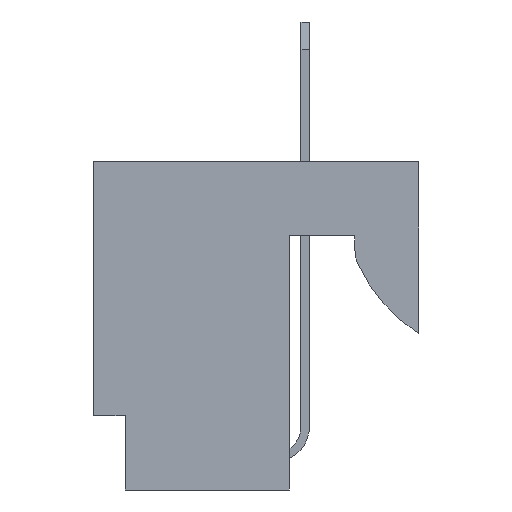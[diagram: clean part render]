
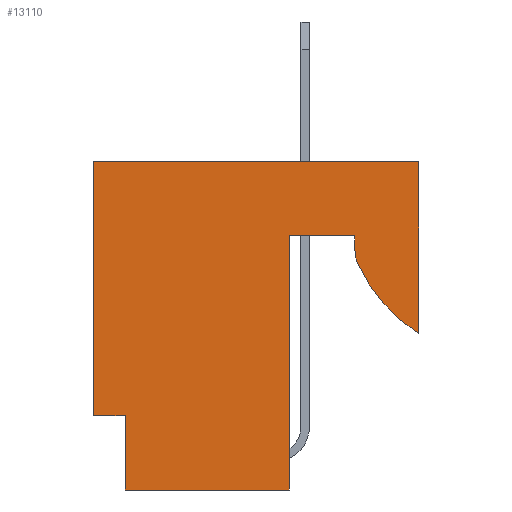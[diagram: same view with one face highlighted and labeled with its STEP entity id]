
A CAD part, left-side view. The second image highlights one B-rep face of the part: STEP entity #13110.
In plain terms, the highlighted planar face has unit normal (-1, 0, 0).
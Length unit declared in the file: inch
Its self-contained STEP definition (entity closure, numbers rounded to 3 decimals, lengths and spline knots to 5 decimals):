
#1=DIRECTION('',(0.,0.,-1.));
#2=VECTOR('',#1,0.16208);
#3=CARTESIAN_POINT('',(-0.748,0.,0.));
#4=LINE('',#3,#2);
#5=CARTESIAN_POINT('',(-0.748,-0.0797,-0.035));
#6=DIRECTION('',(1.,0.,0.));
#7=DIRECTION('',(0.,0.531,-0.847));
#8=AXIS2_PLACEMENT_3D('',#5,#6,#7);
#10=CARTESIAN_POINT('',(-0.748,0.03,-0.08365));
#11=DIRECTION('',(1.,0.,0.));
#12=DIRECTION('',(0.,0.914,-0.405));
#13=AXIS2_PLACEMENT_3D('',#10,#11,#12);
#15=DIRECTION('',(0.,0.,1.));
#16=VECTOR('',#15,0.01365);
#17=CARTESIAN_POINT('',(-0.748,0.06,-0.08365));
#18=LINE('',#17,#16);
#19=DIRECTION('',(0.,1.,0.));
#20=VECTOR('',#19,0.062);
#21=CARTESIAN_POINT('',(-0.748,0.06,-0.07));
#22=LINE('',#21,#20);
#23=DIRECTION('',(0.,0.,-1.));
#24=VECTOR('',#23,0.24);
#25=CARTESIAN_POINT('',(-0.748,0.122,-0.07));
#26=LINE('',#25,#24);
#27=DIRECTION('',(0.,1.,0.));
#28=VECTOR('',#27,0.155);
#29=CARTESIAN_POINT('',(-0.748,0.122,-0.31));
#30=LINE('',#29,#28);
#31=DIRECTION('',(0.,0.,1.));
#32=VECTOR('',#31,0.07);
#33=CARTESIAN_POINT('',(-0.748,0.277,-0.31));
#34=LINE('',#33,#32);
#35=DIRECTION('',(0.,1.,0.));
#36=VECTOR('',#35,0.03);
#37=CARTESIAN_POINT('',(-0.748,0.277,-0.24));
#38=LINE('',#37,#36);
#39=DIRECTION('',(0.,0.,1.));
#40=VECTOR('',#39,0.24);
#41=CARTESIAN_POINT('',(-0.748,0.307,-0.24));
#42=LINE('',#41,#40);
#43=DIRECTION('',(0.,-1.,0.));
#44=VECTOR('',#43,0.307);
#45=CARTESIAN_POINT('',(-0.748,0.307,0.));
#46=LINE('',#45,#44);
#9921=CARTESIAN_POINT('',(-0.748,0.,0.));
#9922=CARTESIAN_POINT('',(-0.748,0.,-0.16208));
#9923=VERTEX_POINT('',#9921);
#9924=VERTEX_POINT('',#9922);
#9925=CARTESIAN_POINT('',(-0.748,0.06,-0.07));
#9926=CARTESIAN_POINT('',(-0.748,0.122,-0.07));
#9927=VERTEX_POINT('',#9925);
#9928=VERTEX_POINT('',#9926);
#9929=CARTESIAN_POINT('',(-0.748,0.122,-0.31));
#9930=VERTEX_POINT('',#9929);
#9931=CARTESIAN_POINT('',(-0.748,0.277,-0.31));
#9932=VERTEX_POINT('',#9931);
#9933=CARTESIAN_POINT('',(-0.748,0.277,-0.24));
#9934=VERTEX_POINT('',#9933);
#9935=CARTESIAN_POINT('',(-0.748,0.307,-0.24));
#9936=VERTEX_POINT('',#9935);
#9937=CARTESIAN_POINT('',(-0.748,0.307,0.));
#9938=VERTEX_POINT('',#9937);
#10109=CARTESIAN_POINT('',(-0.748,0.05742,-0.09581));
#10110=VERTEX_POINT('',#10109);
#10111=CARTESIAN_POINT('',(-0.748,0.06,-0.08365));
#10112=VERTEX_POINT('',#10111);
#13081=CARTESIAN_POINT('',(-0.748,0.,0.));
#13082=DIRECTION('',(1.,0.,0.));
#13083=DIRECTION('',(0.,0.,-1.));
#13084=AXIS2_PLACEMENT_3D('',#13081,#13082,#13083);
#13085=PLANE('',#13084);
#13087=ORIENTED_EDGE('',*,*,#13086,.T.);
#13089=ORIENTED_EDGE('',*,*,#13088,.T.);
#13091=ORIENTED_EDGE('',*,*,#13090,.T.);
#13093=ORIENTED_EDGE('',*,*,#13092,.T.);
#13095=ORIENTED_EDGE('',*,*,#13094,.T.);
#13097=ORIENTED_EDGE('',*,*,#13096,.T.);
#13099=ORIENTED_EDGE('',*,*,#13098,.T.);
#13101=ORIENTED_EDGE('',*,*,#13100,.T.);
#13103=ORIENTED_EDGE('',*,*,#13102,.T.);
#13105=ORIENTED_EDGE('',*,*,#13104,.T.);
#13107=ORIENTED_EDGE('',*,*,#13106,.T.);
#13108=EDGE_LOOP('',(#13087,#13089,#13091,#13093,#13095,#13097,#13099,#13101,
#13103,#13105,#13107));
#13109=FACE_OUTER_BOUND('',#13108,.F.);
#13110=ADVANCED_FACE('',(#13109),#13085,.F.);
#9=CIRCLE('',#8,0.15);
#14=CIRCLE('',#13,0.03);
#13086=EDGE_CURVE('',#9923,#9924,#4,.T.);
#13088=EDGE_CURVE('',#9924,#10110,#9,.T.);
#13090=EDGE_CURVE('',#10110,#10112,#14,.T.);
#13092=EDGE_CURVE('',#10112,#9927,#18,.T.);
#13094=EDGE_CURVE('',#9927,#9928,#22,.T.);
#13096=EDGE_CURVE('',#9928,#9930,#26,.T.);
#13098=EDGE_CURVE('',#9930,#9932,#30,.T.);
#13100=EDGE_CURVE('',#9932,#9934,#34,.T.);
#13102=EDGE_CURVE('',#9934,#9936,#38,.T.);
#13104=EDGE_CURVE('',#9936,#9938,#42,.T.);
#13106=EDGE_CURVE('',#9938,#9923,#46,.T.);
